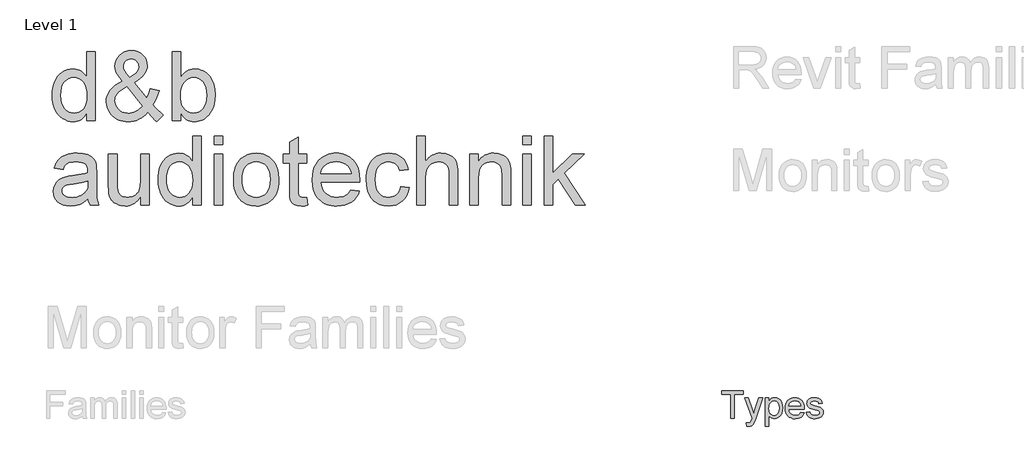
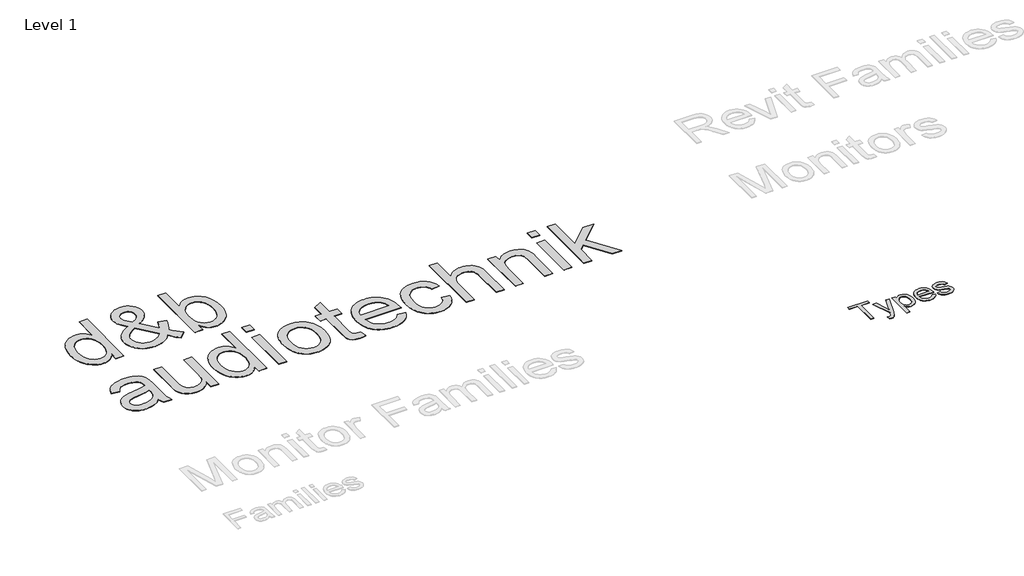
# One storey, part 6 of 7: 2 proxies.
"""IFC4 building model written with IfcOpenShell, lengths in millimetres."""

import ifcopenshell
import ifcopenshell.guid

model = None  # the IFC model being written
_history = None  # IfcOwnerHistory: only IFC2X3 demands one
_inside = {}  # id of a spatial element -> (the spatial element, [elements in it])
_under = {}  # id of a project, library or spatial element -> (it, [spatial elements below it])
_declared = {}  # id of a project -> (the project, [libraries it declares])
_typed = {}  # id of a type object -> (the type object, [elements of that type])
_made_of = {}  # id of a material, layer set ... -> (it, [elements and type objects made of it])


def new_model(schema):
    """Start an empty IFC model of exactly this schema.

    Asked for "IFC4X3", IfcOpenShell would pick the latest addendum, in which some entities
    have other attributes; the version numbers below select the first issue.
    IFC2X3 requires an IfcOwnerHistory on every rooted entity: one is made here for all.
    """
    global model, _history
    if schema == "IFC4X3":
        model = ifcopenshell.file(schema_version=(4, 3, 0, 0))
    else:
        model = ifcopenshell.file(schema=schema)
    _inside.clear()
    _under.clear()
    _declared.clear()
    _typed.clear()
    _made_of.clear()
    _history = None
    if model.schema == "IFC2X3":
        org = make("IfcOrganization", Name="unknown")
        user = make(
            "IfcPersonAndOrganization",
            ThePerson=make("IfcPerson", FamilyName="unknown"),
            TheOrganization=org,
        )
        app = make(
            "IfcApplication",
            ApplicationDeveloper=org,
            Version="unknown",
            ApplicationFullName="unknown",
            ApplicationIdentifier="unknown",
        )
        _history = make(
            "IfcOwnerHistory",
            OwningUser=user,
            OwningApplication=app,
            ChangeAction="ADDED",
            CreationDate=0,
        )
    return model


def make(cls, **values):
    """One entity of the class cls with the attributes given. An attribute that is None is left unset."""
    return model.create_entity(
        cls, **{name: value for name, value in values.items() if value is not None}
    )


def rooted(cls, **values):
    """An entity with a GlobalId (a new one), such as an element, a storey or a relation."""
    return make(cls, GlobalId=ifcopenshell.guid.new(), OwnerHistory=_history, **values)


def si_unit(unit_type, name, prefix=None):
    """IfcSIUnit, for example si_unit("LENGTHUNIT", "METRE", prefix="MILLI")."""
    return make("IfcSIUnit", UnitType=unit_type, Prefix=prefix, Name=name)


def assignment(units):
    """IfcUnitAssignment: the units of a project."""
    return None if units is None else make("IfcUnitAssignment", Units=units)


def point(xyz):
    """IfcCartesianPoint."""
    return None if xyz is None else make("IfcCartesianPoint", Coordinates=xyz)


def direction(xyz):
    """IfcDirection."""
    return None if xyz is None else make("IfcDirection", DirectionRatios=xyz)


def frame(location, z_axis=None, x_axis=None):
    """IfcAxis2Placement3D, a coordinate frame: its origin and axes. An axis left out is left unset."""
    return make(
        "IfcAxis2Placement3D",
        Location=point(location),
        Axis=direction(z_axis),
        RefDirection=direction(x_axis),
    )


def origin():
    """The frame at (0, 0, 0) with its axes left unset."""
    return frame((0.0, 0.0, 0.0))


def origin_with_axes():
    """The frame at (0, 0, 0) with the z axis (0, 0, 1) and the x axis (1, 0, 0) written out."""
    return frame((0.0, 0.0, 0.0), z_axis=(0.0, 0.0, 1.0), x_axis=(1.0, 0.0, 0.0))


def place(relative_to, where):
    """IfcLocalPlacement: puts the frame where relative to a parent placement (None: the world)."""
    return make(
        "IfcLocalPlacement", PlacementRelTo=relative_to, RelativePlacement=where
    )


def context(
    kind, dimensions, precision=None, world=None, true_north=None, identifier=None
):
    """IfcGeometricRepresentationContext, for example the 3D "Model" context."""
    return make(
        "IfcGeometricRepresentationContext",
        ContextIdentifier=identifier,
        ContextType=kind,
        CoordinateSpaceDimension=dimensions,
        Precision=precision,
        WorldCoordinateSystem=world,
        TrueNorth=true_north,
    )


def project(units=None, contexts=None):
    """IfcProject with its units and contexts."""
    return rooted(
        "IfcProject",
        Name="project",
        RepresentationContexts=contexts,
        UnitsInContext=assignment(units),
    )


def spatial(cls, under=None, at=None, **own):
    """A site, building, storey or space (cls), placed at a placement, below another one or the project."""
    s = rooted(cls, ObjectPlacement=at, **own)
    if under is not None:
        _under.setdefault(under.id(), (under, []))[1].append(s)
    return s


def polyline(points):
    """IfcPolyline through the points."""
    return make("IfcPolyline", Points=[point(p) for p in points])


def outline(outer, holes=None, kind="AREA"):
    """IfcArbitraryClosedProfileDef: a profile drawn as a closed curve; with holes, ...WithVoids."""
    if holes is None:
        return make("IfcArbitraryClosedProfileDef", ProfileType=kind, OuterCurve=outer)
    return make(
        "IfcArbitraryProfileDefWithVoids",
        ProfileType=kind,
        OuterCurve=outer,
        InnerCurves=holes,
    )


def extrude(swept, where, along, depth):
    """IfcExtrudedAreaSolid: the profile swept, set in the frame where, extruded along a direction by depth."""
    return make(
        "IfcExtrudedAreaSolid",
        SweptArea=swept,
        Position=where,
        ExtrudedDirection=direction(along),
        Depth=depth,
    )


def shape(context_of_items, identifier, shape_type, items):
    """IfcShapeRepresentation: the items that make up one representation, for example the "Body"."""
    return make(
        "IfcShapeRepresentation",
        ContextOfItems=context_of_items,
        RepresentationIdentifier=identifier,
        RepresentationType=shape_type,
        Items=items,
    )


def made_of(thing, what):
    """Note that an element or type object is made of a material, layer set ...; save() writes the relation."""
    if what is not None:
        _made_of.setdefault(what.id(), (what, []))[1].append(thing)
    return thing


def element(
    cls,
    number,
    at=None,
    inside=None,
    cuts=None,
    type_object=None,
    material=None,
    context=None,
    identifier="Body",
    shape_type=None,
    held_by="IfcProductDefinitionShape",
    body=None,
    shapes=None,
    **own,
):
    """One element of the class cls, such as IfcWall. Its Tag is "e" and its number.

    at: its placement. inside: the storey or other place that contains it. cuts: it is an
    opening in that element (IfcRelVoidsElement). A single representation is given by context,
    identifier, shape_type and body (its items); several are given by shapes. held_by: the class
    of the entity that holds the representations. save() writes the other relations.
    """
    e = rooted(cls, Tag="e%d" % number, ObjectPlacement=at, **own)
    if body is not None:
        shapes = [shape(context, identifier, shape_type, body)]
    if shapes is not None:
        e.Representation = make(held_by, Representations=shapes)
    if inside is not None:
        _inside.setdefault(inside.id(), (inside, []))[1].append(e)
    if cuts is not None:
        rooted(
            "IfcRelVoidsElement", RelatingBuildingElement=cuts, RelatedOpeningElement=e
        )
    if type_object is not None:
        _typed.setdefault(type_object.id(), (type_object, []))[1].append(e)
    return made_of(e, material)


def aggregate(whole, parts):
    """IfcRelAggregates: a whole, such as a stair, and the parts it consists of."""
    return rooted("IfcRelAggregates", RelatingObject=whole, RelatedObjects=parts)


def save(model, path):
    """Write the relations noted so far, then the file.

    IfcRelAggregates (storeys below a building ...), IfcRelContainedInSpatialStructure (elements
    in a storey), IfcRelDefinesByType, IfcRelAssociatesMaterial and IfcRelDeclares: one each for
    every whole, place, type object, material and project.
    """
    for whole, parts in _under.values():
        aggregate(whole, parts)
    for where, things in _inside.values():
        rooted(
            "IfcRelContainedInSpatialStructure",
            RelatedElements=things,
            RelatingStructure=where,
        )
    for kind, things in _typed.values():
        rooted("IfcRelDefinesByType", RelatedObjects=things, RelatingType=kind)
    for what, things in _made_of.values():
        rooted("IfcRelAssociatesMaterial", RelatedObjects=things, RelatingMaterial=what)
    for by, libraries in _declared.values():
        rooted("IfcRelDeclares", RelatingContext=by, RelatedDefinitions=libraries)
    model.write(path)


model = new_model("IFC4")

# Units and contexts
model_context = context("Model", 3, world=origin())
ifc_project = project(units=[si_unit("LENGTHUNIT", "METRE", prefix="MILLI")], contexts=[model_context])

# Site, building, storey
site = spatial("IfcSite", under=ifc_project)
building = spatial("IfcBuilding", under=site)
storey = spatial("IfcBuildingStorey", under=building, Name="Level 1", Elevation=0.0)

# Proxies
placement = place(None, origin())
element("IfcBuildingElementProxy", 1, Name="1000mm Arial", ObjectType="1000mm Arial", at=placement, inside=storey, context=model_context, shape_type="SweptSolid", body=[
    extrude(outline(polyline([(-20485.0918031, 21579.111869), (-20485.0918031, 21694.6019258), (-20502.4384754, 21663.947296), (-20521.720443, 21637.3799502), (-20542.937706, 21614.8998883), (-20566.0902643, 21596.5071105), (-20591.1781179, 21582.2016166), (-20618.2012669, 21571.9834066), (-20647.1597112, 21565.8524807), (-20678.0534508, 21563.8088387), (-20718.4630152, 21566.7678231), (-20757.1988107, 21575.6447762), (-20794.2608372, 21590.4396981), (-20829.6490948, 21611.1525887), (-20862.2577004, 21637.1632569), (-20890.9807709, 21667.8515115), (-20915.8183064, 21703.2173525), (-20936.7703069, 21743.26078), (-20953.4033857, 21787.2196312), (-20965.2841563, 21834.3317435), (-20972.4126187, 21884.597117), (-20974.7887728, 21938.0157516), (-20972.5994233, 21990.4555302), (-20966.0313746, 22040.4145442), (-20955.0846269, 22087.8927935), (-20939.75918, 22132.8902781), (-20920.0625062, 22174.0918939), (-20896.0020777, 22210.1825366), (-20867.5778945, 22241.1622064), (-20834.7899565, 22267.0309031), (-20798.7964521, 22287.429962), (-20760.7555697, 22302.0007184), (-20720.6673091, 22310.7431723), (-20678.5316705, 22313.6573235), (-20647.7163888, 22311.5725845), (-20618.6346535, 22305.3183676), (-20591.2864646, 22294.8946726), (-20565.671822, 22280.3014997), (-20542.0746689, 22262.3757332), (-20520.778948, 22241.9542577), (-20501.7846594, 22219.0370732), (-20485.0918031, 22193.6241796), (-20485.0918031, 22558.5058084), (-20362.6675607, 22558.5058084), (-20362.6675607, 21579.111869), (-20485.0918031, 21579.111869)]), holes=[polyline([(-20852.3645304, 21938.4939713), (-20848.9123819, 21879.1274792), (-20838.5559366, 21827.7562227), (-20821.2951944, 21784.3802017), (-20797.1301554, 21748.9994163), (-20768.2725855, 21721.5391447), (-20736.934251, 21701.9246649), (-20703.1151518, 21690.1559771), (-20666.815288, 21686.2330811), (-20630.3435639, 21689.9766447), (-20596.7262136, 21701.2073354), (-20565.9632372, 21719.9251532), (-20538.0546345, 21746.1300982), (-20514.8833958, 21780.0313914), (-20498.332511, 21821.8382539), (-20488.4019801, 21871.5506859), (-20485.0918031, 21929.1686872), (-20488.4617575, 21992.3385203), (-20498.5716208, 22046.5118453), (-20515.4213929, 22091.6886623), (-20539.0110739, 22127.8689713), (-20567.5323956, 22155.5907693), (-20599.1770896, 22175.3920537), (-20633.945156, 22187.2728242), (-20671.8365948, 22191.2330811), (-20708.8537882, 22187.4297401), (-20742.6728874, 22176.019717), (-20773.2938924, 22157.0030119), (-20800.7168031, 22130.3796247), (-20823.3126838, 22095.5667252), (-20839.4525986, 22051.9814831), (-20849.1365474, 21999.6238985), (-20852.3645304, 21938.4939713)])]), origin_with_axes(), (0.0, 0.0, 1.0), 5.0),
    extrude(outline(polyline([(-19617.362163, 21700.1014523), (-19647.8038355, 21668.157871), (-19679.590501, 21640.4734339), (-19712.7221594, 21617.0481409), (-19747.1988107, 21597.8819921), (-19783.0503436, 21582.9749875), (-19820.3066469, 21572.327127), (-19858.9677205, 21565.9384108), (-19899.0335645, 21563.8088387), (-19935.7219818, 21565.3854693), (-19970.4676317, 21570.1153609), (-20003.270514, 21577.9985138), (-20034.1306289, 21589.0349277), (-20063.0479762, 21603.2246028), (-20090.0225559, 21620.567539), (-20115.0543682, 21641.0637363), (-20138.143413, 21664.7131948), (-20169.42197, 21707.0505823), (-20191.7637965, 21751.8089571), (-20205.1688924, 21798.988319), (-20209.6372577, 21848.5886682), (-20206.0431377, 21892.569936), (-20195.260778, 21934.3693264), (-20177.2901785, 21973.9868394), (-20152.1313391, 22011.4224751), (-20119.829093, 22046.661289), (-20080.4282733, 22079.6883368), (-20033.9288799, 22110.5036185), (-19980.330913, 22139.1071341), (-20033.7420754, 22208.2098804), (-20065.8126838, 22262.9660357), (-20081.8629324, 22309.712011), (-20087.2130152, 22354.7842175), (-20082.9987041, 22397.569936), (-20070.3557709, 22437.4564476), (-20049.2842155, 22474.4437523), (-20019.784038, 22508.5318501), (-19983.9026163, 22537.0905326), (-19943.6873287, 22557.4895915), (-19899.138175, 22569.7290269), (-19850.2551554, 22573.8088387), (-19803.5839018, 22569.9083593), (-19761.3660692, 22558.2069211), (-19723.6016575, 22538.7045241), (-19690.2906667, 22511.4011682), (-19663.0919215, 22478.6281746), (-19643.6642463, 22442.7168643), (-19632.0076412, 22403.6672371), (-19628.1221061, 22361.4792932), (-19630.9988965, 22326.7336434), (-19639.6292676, 22293.273209), (-19654.0132194, 22261.09799), (-19674.150752, 22230.2079864), (-19700.0418653, 22200.6031983), (-19731.6865593, 22172.2836256), (-19769.084834, 22145.2492684), (-19812.2366895, 22119.5001266), (-19635.0562917, 21898.8017364), (-19604.8686734, 21961.866959), (-19582.2130152, 22034.3770205), (-19459.7887728, 22007.8358273), (-19477.213903, 21947.9836434), (-19497.4485739, 21894.4379817), (-19520.4927856, 21847.1988422), (-19546.346538, 21806.2662251), (-19512.6320493, 21763.9138931), (-19476.765572, 21725.0884315), (-19438.7471061, 21689.7898401), (-19398.5766516, 21658.018119), (-19490.3948334, 21563.8088387), (-19521.3745032, 21589.6327023), (-19552.8622813, 21620.9560925), (-19617.362163, 21700.1014523)]), holes=[polyline([(-19874.1661402, 22196.7326076), (-19810.1444783, 22237.3513931), (-19788.4004264, 22255.6657131), (-19773.500894, 22272.6499845), (-19756.2849849, 22306.9921365), (-19750.5463486, 22344.7416038), (-19752.4368108, 22367.2104574), (-19758.1081975, 22387.512378), (-19767.5605087, 22405.6473656), (-19780.7937444, 22421.6154201), (-19796.8664095, 22434.6394347), (-19814.8370091, 22443.9423022), (-19834.705543, 22449.5240228), (-19856.4720114, 22451.3845963), (-19878.7017552, 22449.5389671), (-19899.0036757, 22444.0020797), (-19917.3777732, 22434.773934), (-19933.8240474, 22421.85453), (-19947.3711148, 22406.2750289), (-19957.0475915, 22389.066592), (-19962.8534775, 22370.2292193), (-19964.7887728, 22349.7629107), (-19962.1585645, 22327.9142483), (-19954.2679395, 22304.9298141), (-19941.0571203, 22280.6900532), (-19922.4663296, 22255.0754107), (-19874.1661402, 22196.7326076)]), polyline([(-19699.376841, 21788.3329864), (-19917.9232425, 22061.1573235), (-19963.7202507, 22034.0333001), (-20001.4024684, 22007.8956048), (-20030.9698956, 21982.7442376), (-20052.4225323, 21958.5791985), (-20067.6433686, 21934.967101), (-20078.5153945, 21911.4745584), (-20085.03861, 21888.1015707), (-20087.2130152, 21864.8481379), (-20084.2390865, 21836.2446223), (-20075.3173003, 21807.1031095), (-20060.4476566, 21777.4235996), (-20039.6301554, 21747.2060925), (-20013.3579608, 21720.5304), (-19982.1242368, 21701.476334), (-19945.9289835, 21690.0438943), (-19904.7722008, 21686.2330811), (-19877.2969848, 21688.0114606), (-19849.3883822, 21693.3465991), (-19821.0463929, 21702.2384966), (-19792.2710171, 21714.6871531), (-19764.7210793, 21729.9602947), (-19740.055404, 21747.3256474), (-19718.2739912, 21766.7832113), (-19699.376841, 21788.3329864)])]), origin_with_axes(), (0.0, 0.0, 1.0), 5.0),
    extrude(outline(polyline([(-19153.7281667, 21579.111869), (-19276.1524092, 21579.111869), (-19276.1524092, 22558.5058084), (-19153.7281667, 22558.5058084), (-19153.7281667, 22195.2979485), (-19134.2481863, 22223.0384271), (-19113.468046, 22247.0801751), (-19091.3877459, 22267.4231927), (-19068.0072861, 22284.0674798), (-19043.3266664, 22297.0130364), (-19017.3458869, 22306.2598626), (-18990.0649476, 22311.8079583), (-18961.4838486, 22313.6573235), (-18929.5178507, 22311.9910268), (-18898.418626, 22306.9921365), (-18868.1861746, 22298.6606527), (-18838.8204963, 22286.9965754), (-18811.1734201, 22272.3137363), (-18786.0967747, 22254.925967), (-18763.5905602, 22234.8332675), (-18743.6547766, 22212.0356379), (-18710.3886189, 22158.7440305), (-18685.1924186, 22095.4695868), (-18669.3215024, 22024.8425153), (-18664.031197, 21949.4930243), (-18669.508307, 21862.5467056), (-18676.3546945, 21822.9964423), (-18685.9396369, 21786.0614429), (-18698.2631343, 21751.7417074), (-18713.3251867, 21720.0372359), (-18731.1257941, 21690.9480284), (-18751.6649565, 21664.4740849), (-18797.6861302, 21620.4330397), (-18822.3499374, 21603.1312005), (-18848.1158916, 21588.9751502), (-18874.9839928, 21577.9648889), (-18902.954241, 21570.1004166), (-18932.0266361, 21565.3817332), (-18962.2011781, 21563.8088387), (-18991.8694798, 21565.8375363), (-19019.9013734, 21571.9236292), (-19046.296859, 21582.0671173), (-19071.0559366, 21596.2680006), (-19094.1786062, 21614.5262792), (-19115.6648677, 21636.841953), (-19135.5147213, 21663.2150221), (-19153.7281667, 21693.6454864), (-19153.7281667, 21579.111869)]), holes=[polyline([(-19153.7281667, 21943.7543879), (-19151.6359556, 21888.5797904), (-19145.359322, 21841.6544826), (-19134.8982662, 21802.9784646), (-19120.252788, 21772.5517364), (-19090.5882224, 21734.7873247), (-19056.1115711, 21707.8127449), (-19016.8228341, 21691.6279971), (-18972.7220114, 21686.2330811), (-18936.1083159, 21690.2082823), (-18902.0650512, 21702.133886), (-18870.5922174, 21722.0098922), (-18841.6898145, 21749.8363008), (-18817.5247754, 21785.5383901), (-18800.2640332, 21829.0414381), (-18789.9075879, 21880.345445), (-18786.4554395, 21939.4504107), (-18789.7656164, 21999.6762037), (-18799.6961473, 22051.4733747), (-18816.2470322, 22094.8419234), (-18839.4182709, 22129.7818501), (-18867.2820404, 22156.6667636), (-18897.9105176, 22175.8702733), (-18931.3037024, 22187.3923792), (-18967.4615948, 22191.2330811), (-19004.0752903, 22187.2578799), (-19038.118555, 22175.3322762), (-19069.5913888, 22155.45627), (-19098.4937917, 22127.6298614), (-19122.6588308, 22092.2864369), (-19139.919573, 22049.8593832), (-19150.2760183, 22000.3487002), (-19153.7281667, 21943.7543879)])]), origin_with_axes(), (0.0, 0.0, 1.0), 5.0),
    extrude(outline(polyline([(-20469.7887728, 20473.9603538), (-20498.8182028, 20446.7167755), (-20528.2810195, 20423.8070631), (-20558.1772227, 20405.2312168), (-20588.5068126, 20390.9892364), (-20619.6135094, 20380.42357), (-20651.8410337, 20372.8766654), (-20719.6585645, 20366.8391417), (-20774.1681377, 20370.4706225), (-20821.9676909, 20381.365065), (-20863.0572239, 20399.5224691), (-20897.4367368, 20424.9428349), (-20924.5831768, 20456.0121708), (-20943.9734911, 20491.1164855), (-20955.6076796, 20530.2557788), (-20959.4857425, 20573.4300508), (-20953.6275512, 20624.1811162), (-20936.0529773, 20670.2695394), (-20908.9438983, 20709.7226644), (-20874.4821914, 20740.5678349), (-20833.9829608, 20763.8810451), (-20788.7613107, 20780.7382894), (-20744.7053211, 20790.123351), (-20682.8356478, 20799.1497478), (-20557.6616421, 20818.5176455), (-20509.331564, 20829.4569211), (-20470.5061023, 20841.2330811), (-20469.7887728, 20868.4916038), (-20471.8959283, 20898.1711138), (-20478.217395, 20923.1282042), (-20488.7531727, 20943.3628751), (-20503.5032614, 20958.8751266), (-20528.998349, 20974.3574893), (-20560.0527406, 20985.4163198), (-20596.6664362, 20992.051618), (-20638.8394357, 20994.2633841), (-20678.0534508, 20992.7913641), (-20711.7679395, 20988.3753041), (-20739.9829016, 20981.0152041), (-20762.6983372, 20970.7110641), (-20781.3638497, 20956.6558883), (-20797.4290427, 20938.042681), (-20810.893916, 20914.8714423), (-20821.7584698, 20887.142172), (-20944.1827122, 20902.4452023), (-20934.8649003, 20937.713905), (-20922.9318244, 20969.3959599), (-20908.3834846, 20997.4913671), (-20891.2198808, 21022.0001266), (-20870.7012669, 21043.4154024), (-20846.0878969, 21062.2303586), (-20817.3797707, 21078.4449952), (-20784.5768883, 21092.0593122), (-20748.3442741, 21102.8341997), (-20709.3469523, 21110.530548), (-20667.5849228, 21115.1483569), (-20623.0581857, 21116.6876266), (-20540.2962894, 21111.2478775), (-20505.3488906, 21104.4481912), (-20474.6905247, 21094.9286304), (-20425.2246748, 21070.3899822), (-20406.1631366, 21056.0359191), (-20390.8825228, 21040.29203), (-20368.1073097, 21003.0805598), (-20353.3422766, 20957.2013576), (-20348.8589669, 20914.8789144), (-20347.3645304, 20850.0801455), (-20347.3645304, 20697.767172), (-20345.8103164, 20565.0910948), (-20341.1476743, 20485.0789618), (-20331.9419452, 20432.5046839), (-20316.7584698, 20382.142172), (-20439.1827122, 20382.142172), (-20458.7897198, 20424.7037251), (-20469.7887728, 20473.9603538)]), holes=[polyline([(-20469.7887728, 20718.8088387), (-20552.0425607, 20698.4247241), (-20667.2935077, 20681.2685925), (-20730.8070612, 20671.8835309), (-20772.6213959, 20661.4224751), (-20800.0293623, 20647.8529912), (-20820.3238107, 20629.1426455), (-20832.8770777, 20606.7260972), (-20837.0615001, 20582.0380054), (-20834.7824843, 20563.013828), (-20827.9454371, 20545.6335309), (-20816.5503584, 20529.897114), (-20800.5972482, 20515.8045773), (-20780.2355501, 20504.1928053), (-20755.6147079, 20495.8986824), (-20726.7347215, 20490.9222087), (-20693.595591, 20489.2633841), (-20659.7615474, 20491.0940689), (-20627.8403827, 20496.5861233), (-20597.8320967, 20505.7395471), (-20569.7366895, 20518.5543406), (-20544.3910455, 20533.9694536), (-20522.6320493, 20550.9238363), (-20504.4597008, 20569.4174887), (-20489.8740001, 20589.4504107), (-20481.4005448, 20607.3836493), (-20475.3480768, 20629.1426455), (-20470.5061023, 20684.1379107), (-20469.7887728, 20718.8088387)])]), origin_with_axes(), (0.0, 0.0, 1.0), 5.0),
    extrude(outline(polyline([(-19719.940288, 20382.142172), (-19719.940288, 20505.7619637), (-19741.1762314, 20473.2019273), (-19764.2353874, 20444.9832291), (-19789.117756, 20421.1058691), (-19815.8233372, 20401.5698472), (-19844.352131, 20386.3751636), (-19874.7041374, 20375.5218181), (-19906.8793564, 20369.0098108), (-19940.877788, 20366.8391417), (-20000.5058064, 20372.9364429), (-20028.7730738, 20380.5580693), (-20056.00918, 20391.2283463), (-20102.575823, 20418.7259788), (-20120.7033384, 20434.8061162), (-20135.3936497, 20452.4404675), (-20157.4814219, 20493.388029), (-20171.8579016, 20542.5848804), (-20177.2378732, 20588.972191), (-20179.031197, 20656.4011682), (-20179.031197, 21101.3845963), (-20056.6069546, 21101.3845963), (-20056.6069546, 20714.0266417), (-20054.7538533, 20636.5550508), (-20049.1945493, 20589.2113008), (-20041.864338, 20567.1459451), (-20031.3509769, 20547.5762984), (-20017.6544659, 20530.5023608), (-20000.774805, 20515.9241323), (-19981.2201027, 20504.260055), (-19959.4984674, 20495.9285712), (-19935.6098991, 20490.9296809), (-19909.5543978, 20489.2633841), (-19882.7217895, 20490.9670418), (-19856.74101, 20496.0780148), (-19831.6120594, 20504.5963032), (-19807.3349376, 20516.5219069), (-19785.2247488, 20531.3840784), (-19766.5965971, 20548.7120702), (-19751.4504827, 20568.5058824), (-19739.7864054, 20590.7655148), (-19731.103729, 20616.9106823), (-19724.9018173, 20648.3610996), (-19719.940288, 20727.1776834), (-19719.940288, 21101.3845963), (-19597.5160455, 21101.3845963), (-19597.5160455, 20382.142172), (-19719.940288, 20382.142172)])), origin_with_axes(), (0.0, 0.0, 1.0), 5.0),
    extrude(outline(polyline([(-18985.3948334, 20382.142172), (-18985.3948334, 20497.6322288), (-19002.7415057, 20466.977599), (-19022.0234733, 20440.4102532), (-19043.2407363, 20417.9301914), (-19066.3932946, 20399.5374135), (-19091.4811482, 20385.2319196), (-19118.5042972, 20375.0137097), (-19147.4627415, 20368.8827837), (-19178.3564811, 20366.8391417), (-19218.7660455, 20369.7981261), (-19257.501841, 20378.6750792), (-19294.5638675, 20393.4700011), (-19329.9521251, 20414.1828917), (-19362.5607307, 20440.1935599), (-19391.2838012, 20470.8818145), (-19416.1213367, 20506.2476556), (-19437.0733372, 20546.291083), (-19453.706416, 20590.2499342), (-19465.5871866, 20637.3620466), (-19472.715649, 20687.62742), (-19475.0918031, 20741.0460546), (-19472.9024536, 20793.4858332), (-19466.3344049, 20843.4448472), (-19455.3876572, 20890.9230965), (-19440.0622103, 20935.9205811), (-19420.3655365, 20977.1221969), (-19396.305108, 21013.2128396), (-19367.8809248, 21044.1925094), (-19335.0929868, 21070.0612061), (-19299.0994824, 21090.4602651), (-19261.0586, 21105.0310215), (-19220.9703394, 21113.7734753), (-19178.8347008, 21116.6876266), (-19148.0194191, 21114.6028876), (-19118.9376838, 21108.3486706), (-19091.5894949, 21097.9249756), (-19065.9748523, 21083.3318027), (-19042.3776992, 21065.4060363), (-19021.0819783, 21044.9845608), (-19002.0876897, 21022.0673762), (-18985.3948334, 20996.6544826), (-18985.3948334, 21361.5361114), (-18862.970591, 21361.5361114), (-18862.970591, 20382.142172), (-18985.3948334, 20382.142172)]), holes=[polyline([(-19352.6675607, 20741.5242743), (-19349.2154122, 20682.1577822), (-19338.8589669, 20630.7865257), (-19321.5982247, 20587.4105048), (-19297.4331857, 20552.0297194), (-19268.5756158, 20524.5694477), (-19237.2372813, 20504.954968), (-19203.4181821, 20493.1862801), (-19167.1183183, 20489.2633841), (-19130.6465942, 20493.0069477), (-19097.0292439, 20504.2376384), (-19066.2662675, 20522.9554562), (-19038.3576648, 20549.1604012), (-19015.1864261, 20583.0616944), (-18998.6355413, 20624.868557), (-18988.7050104, 20674.5809889), (-18985.3948334, 20732.1989902), (-18988.7647878, 20795.3688233), (-18998.8746511, 20849.5421483), (-19015.7244233, 20894.7189653), (-19039.3141042, 20930.8992743), (-19067.8354259, 20958.6210724), (-19099.4801199, 20978.4223567), (-19134.2481863, 20990.3031273), (-19172.1396251, 20994.2633841), (-19209.1568185, 20990.4600431), (-19242.9759177, 20979.05002), (-19273.5969227, 20960.0333149), (-19301.0198334, 20933.4099277), (-19323.6157141, 20898.5970282), (-19339.7556289, 20855.0117861), (-19349.4395777, 20802.6542015), (-19352.6675607, 20741.5242743)])]), origin_with_axes(), (0.0, 0.0, 1.0), 5.0),
    extrude(outline(polyline([(-18679.3342273, 20382.142172), (-18679.3342273, 21101.3845963), (-18556.9099849, 21101.3845963), (-18556.9099849, 20382.142172), (-18679.3342273, 20382.142172)])), origin_with_axes(), (0.0, 0.0, 1.0), 5.0),
    extrude(outline(polyline([(-18679.3342273, 21239.111869), (-18679.3342273, 21361.5361114), (-18556.9099849, 21361.5361114), (-18556.9099849, 21239.111869), (-18679.3342273, 21239.111869)])), origin_with_axes(), (0.0, 0.0, 1.0), 5.0),
    extrude(outline(polyline([(-18403.8796819, 20741.7633841), (-18402.2245934, 20789.9477547), (-18397.259328, 20834.9116145), (-18388.9838856, 20876.6549635), (-18377.3982662, 20915.1778018), (-18362.5024698, 20950.4801292), (-18344.2964965, 20982.5619459), (-18322.7803463, 21011.4232519), (-18297.954019, 21037.064047), (-18251.2977098, 21071.8993631), (-18199.7994262, 21096.7817317), (-18143.4591682, 21111.7111528), (-18082.2769357, 21116.6876266), (-18014.7358757, 21110.6276863), (-17983.391937, 21103.0527611), (-17953.6657259, 21092.4478657), (-17925.5572424, 21078.8130002), (-17899.0664865, 21062.1481646), (-17874.1934581, 21042.4533588), (-17850.9381573, 21019.728583), (-17829.8946226, 20994.3325018), (-17811.6568925, 20966.6237801), (-17796.224967, 20936.6024178), (-17783.5988462, 20904.2684149), (-17773.77853, 20869.6217715), (-17766.7640184, 20832.6624875), (-17761.1524092, 20751.8059978), (-17763.6331738, 20686.2749549), (-17771.0754679, 20628.1264287), (-17783.4792913, 20577.3604189), (-17800.844644, 20533.9769258), (-17822.9548328, 20496.5039292), (-17849.5931644, 20463.4694092), (-17880.7596387, 20434.8733658), (-17916.4542558, 20410.7157989), (-17955.2871896, 20391.5197614), (-17995.8686142, 20377.808306), (-18038.1985295, 20369.5814328), (-18082.2769357, 20366.8391417), (-18150.8043238, 20372.8766654), (-18182.4845107, 20380.42357), (-18212.4423594, 20390.9892364), (-18240.6778701, 20404.5736647), (-18267.1910426, 20421.1768548), (-18291.9818769, 20440.7988067), (-18315.0503732, 20463.4395205), (-18335.8697424, 20488.9196637), (-18353.9131957, 20517.059904), (-18369.1807332, 20547.8602414), (-18381.6723547, 20581.3206758), (-18391.3880604, 20617.4412073), (-18398.3278501, 20656.2218358), (-18403.8796819, 20741.7633841)]), holes=[polyline([(-18281.4554395, 20742.002494), (-18277.9136248, 20682.6210576), (-18267.2881809, 20631.204968), (-18249.5791078, 20587.7542252), (-18224.7864054, 20552.2688292), (-18194.6286757, 20524.703947), (-18160.8245209, 20505.0147454), (-18123.3739409, 20493.2012245), (-18082.2769357, 20489.2633841), (-18041.3891516, 20493.223641), (-18004.0880152, 20505.1044116), (-17970.3735266, 20524.9056959), (-17940.2456857, 20552.627494), (-17915.4529833, 20588.4640825), (-17897.7439101, 20632.6097383), (-17887.1184662, 20685.0644613), (-17883.5766516, 20745.8282516), (-17887.1408828, 20803.3266979), (-17897.8335763, 20853.3977947), (-17915.6547322, 20896.0415417), (-17940.6043505, 20931.2579391), (-17970.8442741, 20958.8228213), (-18004.5363462, 20978.5120229), (-18041.6805667, 20990.3255438), (-18082.2769357, 20994.2633841), (-18123.3739409, 20990.3404882), (-18160.8245209, 20978.5718003), (-18194.6286757, 20958.9573206), (-18224.7864054, 20931.4970489), (-18249.5791078, 20896.1162635), (-18267.2881809, 20852.7402426), (-18277.9136248, 20801.3689861), (-18281.4554395, 20742.002494)])]), origin_with_axes(), (0.0, 0.0, 1.0), 5.0),
    extrude(outline(polyline([(-17363.2736213, 20484.2420773), (-17347.970591, 20378.5555243), (-17396.4501128, 20369.7682374), (-17439.549663, 20366.8391417), (-17498.3109082, 20371.920226), (-17522.0873938, 20378.2715814), (-17542.127788, 20387.1634788), (-17573.0925133, 20410.6560215), (-17593.2972955, 20440.4849751), (-17599.7831502, 20461.5415861), (-17604.4159035, 20491.7142601), (-17608.1221061, 20579.407797), (-17608.1221061, 20978.9603538), (-17699.940288, 20978.9603538), (-17699.940288, 21101.3845963), (-17608.1221061, 21101.3845963), (-17608.1221061, 21276.1738955), (-17485.6978637, 21348.1459599), (-17485.6978637, 21101.3845963), (-17363.2736213, 21101.3845963), (-17363.2736213, 20978.9603538), (-17485.6978637, 20978.9603538), (-17485.6978637, 20582.9944448), (-17484.0838722, 20542.7044353), (-17479.2418978, 20519.8694448), (-17470.7833869, 20507.2265115), (-17458.3197861, 20497.5126739), (-17440.655546, 20491.3257066), (-17416.5951175, 20489.2633841), (-17363.2736213, 20484.2420773)])), origin_with_axes(), (0.0, 0.0, 1.0), 5.0),
    extrude(outline(polyline([(-16737.284038, 20596.3845963), (-16617.250894, 20581.081566), (-16635.6548802, 20533.0055421), (-16660.4998879, 20490.6382658), (-16691.7859171, 20453.9797371), (-16729.5129679, 20423.0299561), (-16773.2924867, 20398.4464748), (-16822.7359201, 20380.8868453), (-16877.8432679, 20370.3510676), (-16938.6145304, 20366.8391417), (-16977.6305327, 20368.3541268), (-17014.5767404, 20372.8990819), (-17049.4531534, 20380.4740072), (-17082.2597719, 20391.0789026), (-17112.9965957, 20404.7137681), (-17141.6636248, 20421.3786037), (-17168.2608594, 20441.0734094), (-17192.7882993, 20463.7981853), (-17214.812558, 20489.25778), (-17233.9002489, 20517.1570424), (-17250.0513719, 20547.4959725), (-17263.2659272, 20580.2745702), (-17273.5439146, 20615.4928356), (-17280.8853341, 20653.1507687), (-17286.7584698, 20735.7856379), (-17280.8255567, 20821.2225757), (-17273.4094153, 20860.1414396), (-17263.0268173, 20896.5272336), (-17249.6777628, 20930.3799576), (-17233.3622517, 20961.6996117), (-17214.0802841, 20990.4861958), (-17191.8318599, 21016.7397099), (-17167.2184899, 21040.1650029), (-17140.8416847, 21060.4669234), (-17112.7014444, 21077.6454716), (-17082.797769, 21091.7006474), (-17051.1306585, 21102.6324508), (-17017.7001128, 21110.4408818), (-16982.5061319, 21115.1259404), (-16945.548716, 21116.6876266), (-16909.7999256, 21115.1296765), (-16875.721168, 21110.4558261), (-16843.3124433, 21102.6660756), (-16812.5737515, 21091.7604249), (-16783.5050925, 21077.7388739), (-16756.1064663, 21060.6014227), (-16730.377873, 21040.3480713), (-16706.3193126, 21016.9788198), (-16684.54724, 20990.7850831), (-16665.6781105, 20962.0582764), (-16649.711924, 20930.7983998), (-16636.6486805, 20897.0054533), (-16626.48838, 20860.6794368), (-16619.2310224, 20821.8203503), (-16613.4251364, 20736.5029675), (-16614.142466, 20703.5058084), (-17164.3342273, 20703.5058084), (-17157.2431259, 20654.6526775), (-17143.143117, 20611.866959), (-17122.0342007, 20575.1486528), (-17093.916377, 20544.4977591), (-17060.3438598, 20520.3327201), (-17022.8708632, 20503.0719779), (-16981.4973873, 20492.7155326), (-16936.2234319, 20489.2633841), (-16902.3594996, 20490.8624313), (-16871.0659982, 20495.6595726), (-16842.3429276, 20503.6548082), (-16816.190288, 20514.8481379), (-16792.6080791, 20529.5384492), (-16771.5963012, 20548.0246294), (-16753.1549541, 20570.3066784), (-16737.284038, 20596.3845963)]), holes=[polyline([(-17164.3342273, 20825.9300508), (-16735.8493789, 20825.9300508), (-16742.1409568, 20860.5710901), (-16752.4077359, 20890.6092648), (-16766.6497162, 20916.044575), (-16784.8668978, 20936.8770205), (-16818.2526104, 20961.9835546), (-16856.2411876, 20979.9167932), (-16898.8326293, 20990.6767364), (-16946.0269357, 20994.2633841), (-16989.0741806, 20991.4015381), (-17028.5497221, 20982.8160001), (-17064.4535603, 20968.5067702), (-17096.7856952, 20948.4738482), (-17123.9171908, 20923.6437848), (-17144.2191113, 20894.9431308), (-17157.6914569, 20862.3718862), (-17164.3342273, 20825.9300508)])]), origin_with_axes(), (0.0, 0.0, 1.0), 5.0),
    extrude(outline(polyline([(-16031.9099849, 20642.2936872), (-15909.4857425, 20626.9906569), (-15922.8011722, 20569.2232119), (-15943.6186734, 20518.1060096), (-15971.9382461, 20473.63905), (-16007.7598902, 20435.822333), (-16049.574225, 20405.6421868), (-16095.8718694, 20384.0849395), (-16146.6528235, 20371.1505912), (-16201.9170872, 20366.8391417), (-16270.5789746, 20372.8542488), (-16302.2479532, 20380.3731328), (-16332.1422884, 20390.8995702), (-16360.2619802, 20404.4335613), (-16386.6070286, 20420.9751059), (-16411.1774336, 20440.524204), (-16433.9731952, 20463.0808557), (-16454.5123575, 20488.4470482), (-16472.3129649, 20516.4247685), (-16487.3750173, 20547.0140167), (-16499.6985148, 20580.2147928), (-16509.2834572, 20616.0270967), (-16516.1298447, 20654.4509285), (-16521.6069546, 20739.1331758), (-16519.2681614, 20795.4211286), (-16512.2517818, 20848.0776005), (-16500.5578158, 20897.1025916), (-16484.1862633, 20942.4961019), (-16463.0250417, 20983.3465251), (-16436.9620683, 21018.7422549), (-16405.9973429, 21048.6832912), (-16370.1308656, 21073.1696341), (-16330.9841001, 21092.2087558), (-16290.17851, 21105.8081285), (-16247.7140954, 21113.967752), (-16203.5908561, 21116.6876266), (-16149.2755596, 21112.9515352), (-16100.1459579, 21101.743261), (-16056.2020511, 21083.0628041), (-16017.4438391, 21056.9101644), (-15984.528874, 21023.8831166), (-15958.1147079, 20984.5794353), (-15938.2013409, 20938.9991204), (-15924.7887728, 20887.142172), (-16047.2130152, 20871.8391417), (-16056.769937, 20900.4351852), (-16069.4203424, 20925.2503041), (-16085.1642315, 20946.2844986), (-16104.0016042, 20963.5377686), (-16125.454241, 20976.9802254), (-16149.0439219, 20986.5819803), (-16174.7706472, 20992.3430332), (-16202.6344167, 20994.2633841), (-16244.2320582, 20990.4824597), (-16281.7498879, 20979.1396862), (-16315.1879057, 20960.2350638), (-16344.5461118, 20933.7685925), (-16368.4496245, 20899.1275532), (-16385.5235621, 20855.6992269), (-16395.7679247, 20803.4836138), (-16399.1827122, 20742.4807137), (-16395.8426465, 20680.5587351), (-16385.8224494, 20627.7378751), (-16369.1221209, 20584.0181338), (-16345.7416611, 20549.399511), (-16316.9662852, 20523.0899555), (-16284.0812089, 20504.2974159), (-16247.086432, 20493.0218921), (-16205.9819546, 20489.2633841), (-16172.8577684, 20491.6096495), (-16142.587956, 20498.6484457), (-16115.1725175, 20510.3797726), (-16090.6114527, 20526.8036304), (-16069.5922026, 20548.0993512), (-16052.8022079, 20574.4462677), (-16040.2414687, 20605.8443796), (-16031.9099849, 20642.2936872)])), origin_with_axes(), (0.0, 0.0, 1.0), 5.0),
    extrude(outline(polyline([(-15802.3645304, 20382.142172), (-15802.3645304, 21361.5361114), (-15679.940288, 21361.5361114), (-15679.940288, 21001.4366796), (-15658.1476669, 21028.4486203), (-15634.9726921, 21051.8589689), (-15610.4153634, 21071.6677254), (-15584.4756809, 21087.8748898), (-15557.1536447, 21100.4804622), (-15528.4492546, 21109.4844424), (-15498.3625107, 21114.8868305), (-15466.893413, 21116.6876266), (-15428.6208928, 21114.7224425), (-15392.9486923, 21108.8268903), (-15359.8768114, 21099.00097), (-15329.4052501, 21085.2446815), (-15302.3111154, 21068.0213002), (-15279.3715143, 21047.7941015), (-15260.5864468, 21024.5630853), (-15245.955913, 20998.3282516), (-15234.9718043, 20967.4681367), (-15227.1260124, 20930.3612771), (-15222.4185372, 20887.0076727), (-15220.8493789, 20837.4073235), (-15220.8493789, 20382.142172), (-15343.2736213, 20382.142172), (-15343.2736213, 20824.7345016), (-15345.7095529, 20866.0706166), (-15353.0173476, 20901.369208), (-15365.1970055, 20930.6302757), (-15382.2485266, 20953.8538198), (-15403.768413, 20971.5330042), (-15429.3531667, 20984.160993), (-15459.002788, 20991.7377864), (-15492.7172766, 20994.2633841), (-15518.981999, 20992.5597265), (-15544.4546701, 20987.4487535), (-15569.1352897, 20978.9304651), (-15593.023858, 20967.0048614), (-15614.8276873, 20952.1651064), (-15633.25409, 20934.9043643), (-15648.3030661, 20915.2226349), (-15659.9746156, 20893.1199182), (-15668.7095973, 20867.5799975), (-15674.9488699, 20837.5866559), (-15679.940288, 20764.2397099), (-15679.940288, 20382.142172), (-15802.3645304, 20382.142172)])), origin_with_axes(), (0.0, 0.0, 1.0), 5.0),
    extrude(outline(polyline([(-15052.5160455, 20382.142172), (-15052.5160455, 21101.3845963), (-14930.0918031, 21101.3845963), (-14930.0918031, 21000.9584599), (-14909.8944931, 21028.0824833), (-14887.5601388, 21051.5899703), (-14863.0887403, 21071.4809208), (-14836.4802974, 21087.7553349), (-14807.7348103, 21100.4132125), (-14776.852279, 21109.4545537), (-14743.8327033, 21114.8793583), (-14708.6760834, 21116.6876266), (-14648.3307354, 21110.859324), (-14593.0664717, 21093.3744163), (-14568.3634354, 21080.8062049), (-14546.9780484, 21066.4147809), (-14528.9103104, 21050.2001443), (-14514.1602217, 21032.1622951), (-14491.893117, 20990.7066251), (-14477.4568599, 20942.1374372), (-14472.6148855, 20895.6903491), (-14471.000894, 20823.7780622), (-14471.000894, 20382.142172), (-14593.4251364, 20382.142172), (-14593.4251364, 20807.2794826), (-14596.9520067, 20870.583815), (-14607.5326175, 20915.596244), (-14615.9388231, 20932.6253485), (-14627.0499589, 20947.8461848), (-14657.3870209, 20972.8630527), (-14696.27226, 20988.9133013), (-14741.4341327, 20994.2633841), (-14778.6082419, 20991.2595667), (-14813.1371985, 20982.2481143), (-14845.0210023, 20967.2290269), (-14874.2596535, 20946.2023046), (-14898.6862189, 20916.7768489), (-14916.1337657, 20876.5615612), (-14926.6022938, 20825.5564417), (-14930.0918031, 20763.7614902), (-14930.0918031, 20382.142172), (-15052.5160455, 20382.142172)])), origin_with_axes(), (0.0, 0.0, 1.0), 5.0),
    extrude(outline(polyline([(-14302.6675607, 20382.142172), (-14302.6675607, 21101.3845963), (-14180.2433183, 21101.3845963), (-14180.2433183, 20382.142172), (-14302.6675607, 20382.142172)])), origin_with_axes(), (0.0, 0.0, 1.0), 5.0),
    extrude(outline(polyline([(-14302.6675607, 21239.111869), (-14302.6675607, 21361.5361114), (-14180.2433183, 21361.5361114), (-14180.2433183, 21239.111869), (-14302.6675607, 21239.111869)])), origin_with_axes(), (0.0, 0.0, 1.0), 5.0),
    extrude(outline(polyline([(-13996.6069546, 20382.142172), (-13996.6069546, 21361.5361114), (-13874.1827122, 21361.5361114), (-13874.1827122, 20835.2553349), (-13599.6846061, 21101.3845963), (-13430.3948334, 21101.3845963), (-13708.2404773, 20831.907797), (-13415.0918031, 20382.142172), (-13558.0794925, 20382.142172), (-13795.9937917, 20746.784691), (-13874.1827122, 20670.986869), (-13874.1827122, 20382.142172), (-13996.6069546, 20382.142172)])), origin_with_axes(), (0.0, 0.0, 1.0), 5.0),
])
element("IfcBuildingElementProxy", 2, Name="400mm Arial", ObjectType="400mm Arial", at=placement, inside=storey, context=model_context, shape_type="SweptSolid", body=[
    extrude(outline(polyline([(-11345.9583027, 17351.3054836), (-11345.9583027, 17694.0933624), (-11474.5037572, 17694.0933624), (-11474.5037572, 17743.0630593), (-11168.4431512, 17743.0630593), (-11168.4431512, 17694.0933624), (-11296.9886057, 17694.0933624), (-11296.9886057, 17351.3054836), (-11345.9583027, 17351.3054836)])), origin_with_axes(), (0.0, 0.0, 1.0), 5.0),
    extrude(outline(polyline([(-11119.4734542, 17241.1236654), (-11125.5946663, 17288.2761275), (-11100.7272421, 17283.9721502), (-11087.6479334, 17285.3231209), (-11077.4857648, 17289.3760328), (-11063.2348179, 17304.4399533), (-11049.8446663, 17340.4977184), (-11046.0189088, 17352.3575669), (-11150.0795148, 17639.0024533), (-11098.4317875, 17639.0024533), (-11043.2452345, 17479.2770745), (-11024.0208027, 17415.386923), (-11004.7963709, 17471.8168472), (-10948.0795148, 17639.0024533), (-10896.8143633, 17639.0024533), (-10996.9535679, 17344.4191199), (-11022.9687194, 17280.5289684), (-11036.2871379, 17260.1328983), (-11051.3749694, 17246.0015063), (-11068.9017213, 17237.7522165), (-11089.5369012, 17235.0024533), (-11119.4734542, 17241.1236654)])), origin_with_axes(), (0.0, 0.0, 1.0), 5.0),
    extrude(outline(polyline([(-10856.261333, 17241.1236654), (-10856.261333, 17639.0024533), (-10807.291636, 17639.0024533), (-10807.291636, 17590.9891957), (-10791.3190982, 17614.6730262), (-10773.4336815, 17631.590048), (-10752.5833027, 17641.740261), (-10727.7158785, 17645.1236654), (-10694.5991644, 17640.3892904), (-10665.6429618, 17626.1861654), (-10642.0667307, 17603.3750858), (-10625.0899315, 17572.8168472), (-10614.832119, 17536.7351711), (-10611.4128482, 17497.353779), (-10615.2744722, 17455.4736891), (-10626.8593444, 17418.0171313), (-10645.7968444, 17386.885029), (-10671.7163519, 17363.9783055), (-10701.9039703, 17349.88278), (-10733.6458027, 17345.1842715), (-10756.1579949, 17348.328566), (-10776.2551777, 17357.7614495), (-10793.4591313, 17372.000441), (-10807.291636, 17389.5630593), (-10807.291636, 17241.1236654), (-10856.261333, 17241.1236654)]), holes=[polyline([(-10807.291636, 17492.8585139), (-10801.9953529, 17448.9579457), (-10795.374999, 17431.9572355), (-10786.1065035, 17418.2562411), (-10762.6617828, 17400.1795366), (-10749.2447314, 17395.6603605), (-10734.697886, 17394.1539684), (-10719.9418195, 17395.7141602), (-10706.2796805, 17400.3947355), (-10682.2371853, 17419.1170366), (-10672.6757802, 17433.3141839), (-10665.8462052, 17450.9425574), (-10660.3825451, 17496.4929836), (-10665.7146947, 17540.1544419), (-10672.3798818, 17557.2866625), (-10681.7111436, 17571.2865442), (-10705.1199978, 17589.9371124), (-10718.3846166, 17594.5997544), (-10732.6893633, 17596.1539684), (-10746.9492769, 17594.5011216), (-10760.3663283, 17589.5425811), (-10784.6718444, 17569.7084192), (-10794.5680032, 17554.9882191), (-10801.6366881, 17537.2731682), (-10805.8778991, 17516.5632665), (-10807.291636, 17492.8585139)])]), origin_with_axes(), (0.0, 0.0, 1.0), 5.0),
    extrude(outline(polyline([(-10354.8958027, 17437.0024533), (-10306.8825451, 17430.8812411), (-10314.2441396, 17411.6508316), (-10324.1821427, 17394.7039211), (-10336.6965544, 17380.0405096), (-10351.7873747, 17367.6605972), (-10369.2991822, 17357.8272047), (-10389.0765555, 17350.8033529), (-10435.4279997, 17345.1842715), (-10465.8128837, 17347.6082475), (-10492.8860963, 17354.8801758), (-10516.6476375, 17367.0000563), (-10537.0975072, 17383.9678889), (-10553.5422871, 17405.3114317), (-10565.2885584, 17430.5584429), (-10572.3363212, 17459.7089223), (-10574.6855754, 17492.7628699), (-10572.3124102, 17526.937645), (-10565.1929144, 17557.0595082), (-10553.3270882, 17583.1284594), (-10536.7149315, 17605.1444987), (-10516.3188614, 17622.6353841), (-10493.1012951, 17635.1288737), (-10467.0622326, 17642.6249675), (-10438.2016739, 17645.1236654), (-10410.2706547, 17642.6309452), (-10385.0116881, 17635.1527847), (-10362.4247741, 17622.6891839), (-10342.5099125, 17605.2401427), (-10326.2534317, 17583.2719253), (-10314.6416597, 17557.2507961), (-10307.6745965, 17527.1767549), (-10305.3522421, 17493.0498018), (-10305.6391739, 17479.8509381), (-10525.7158785, 17479.8509381), (-10522.8794379, 17460.3096858), (-10517.2394343, 17443.1953983), (-10508.7958678, 17428.5080759), (-10497.5487383, 17416.2477184), (-10469.1305328, 17399.6774059), (-10434.4715603, 17394.1539684), (-10408.4085868, 17396.7124438), (-10386.4583027, 17404.3878699), (-10368.620708, 17417.6584665), (-10354.8958027, 17437.0024533)]), holes=[polyline([(-10525.7158785, 17528.8206351), (-10354.3219391, 17528.8206351), (-10360.9452819, 17554.6923207), (-10373.9289466, 17573.199423), (-10387.2832317, 17583.2420366), (-10402.4786625, 17590.4153321), (-10438.3929618, 17596.1539684), (-10471.4020764, 17591.5750148), (-10498.6964656, 17577.838154), (-10517.6698321, 17556.4258671), (-10525.7158785, 17528.8206351)])]), origin_with_axes(), (0.0, 0.0, 1.0), 5.0),
    extrude(outline(polyline([(-10274.7461815, 17437.0024533), (-10225.7764845, 17443.1236654), (-10218.0532364, 17422.1776427), (-10203.1088709, 17406.7789684), (-10180.847744, 17397.3102184), (-10151.1742118, 17394.1539684), (-10121.8593444, 17397.0471976), (-10101.2480754, 17405.7268851), (-10089.0534732, 17418.3040631), (-10084.9886057, 17432.8897639), (-10089.0773841, 17445.371298), (-10101.3437194, 17454.8878699), (-10151.7480754, 17468.8518851), (-10225.4895527, 17492.8106919), (-10244.1520764, 17504.8498728), (-10257.6737383, 17520.7865442), (-10265.8871616, 17539.6044893), (-10268.6249694, 17560.2874911), (-10266.4251588, 17579.2608576), (-10259.8257269, 17596.775654), (-10249.4244485, 17612.1384618), (-10235.8190982, 17624.6558624), (-10204.6869959, 17639.1459192), (-10162.5558406, 17645.1236654), (-10130.6824978, 17642.7206114), (-10102.9696663, 17635.5114495), (-10080.6846285, 17624.2015536), (-10065.0946663, 17609.496298), (-10054.7651209, 17590.3077326), (-10048.261333, 17565.5479078), (-10097.23103, 17559.4266957), (-10103.4120196, 17574.8373254), (-10115.6424883, 17586.4461086), (-10134.0419911, 17593.7270035), (-10158.730083, 17596.1539684), (-10186.8494012, 17593.8346029), (-10205.5956133, 17586.8765063), (-10216.1403576, 17576.8338927), (-10219.6552724, 17565.260976), (-10213.8209921, 17551.010029), (-10195.5529997, 17540.2022639), (-10153.3740224, 17529.7770745), (-10081.4976019, 17506.7268851), (-10062.51228, 17495.7039211), (-10048.1178671, 17480.6160896), (-10039.0436483, 17461.4155688), (-10036.0189088, 17438.0545366), (-10039.56969, 17413.9044419), (-10050.2220338, 17391.1890063), (-10067.5694533, 17371.6895982), (-10091.2054618, 17357.1875858), (-10119.7551777, 17348.1851), (-10151.8437194, 17345.1842715), (-10178.1996024, 17346.630886), (-10201.2199031, 17350.9707298), (-10220.9046214, 17358.2038027), (-10237.2537572, 17368.3301048), (-10250.6080423, 17381.3018141), (-10261.308208, 17397.0711086), (-10269.3542544, 17415.6379883), (-10274.7461815, 17437.0024533)])), origin_with_axes(), (0.0, 0.0, 1.0), 5.0),
])

save(model, "model.ifc")
